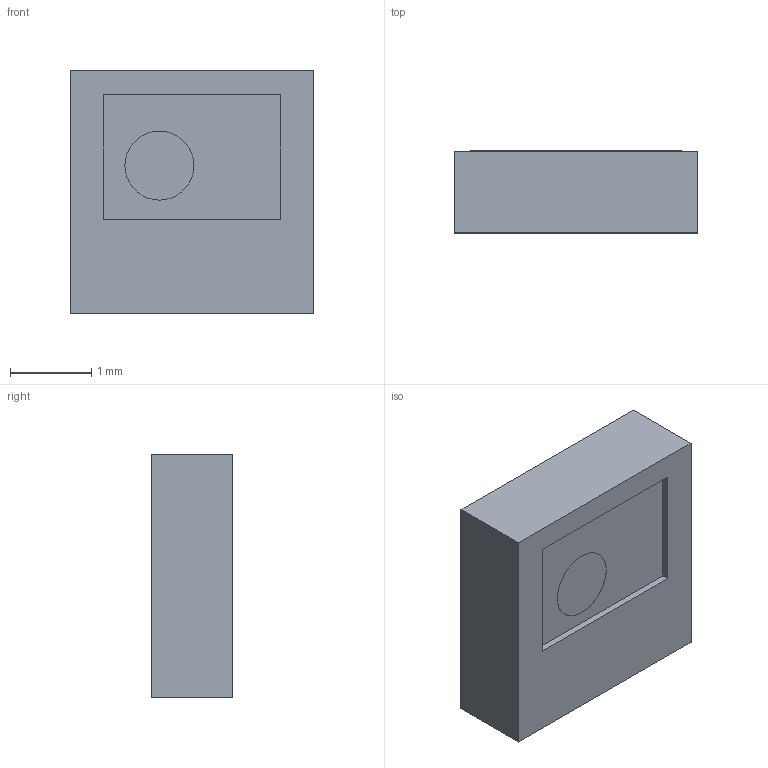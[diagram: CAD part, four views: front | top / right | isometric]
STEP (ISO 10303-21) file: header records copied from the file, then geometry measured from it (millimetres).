
FILE_DESCRIPTION((''),'2;1');
FILE_NAME('MODEL-2','2015-12-02T',('jre'),(''),'PRO/ENGINEER BY PARAMETRIC TECHNOLOGY CORPORATION, 2010280','PRO/ENGINEER BY PARAMETRIC TECHNOLOGY CORPORATION, 2010280','');
FILE_SCHEMA(('CONFIG_CONTROL_DESIGN'));
Length unit declared in the file: millimetre
Products named in the file (1): MODEL-2
Bounding box: 3 x 1.01 x 3 mm (x, y, z)
Volume: 8.8 mm3; surface area: 31.8 mm2
Topology: 2 solids, 2 shells, 45 faces, 102 edges, 68 vertices
Faces by surface type: plane 38, cylinder 7
Entity records: 1286 total; most frequent: CARTESIAN_POINT 215, DIRECTION 206, ORIENTED_EDGE 204, EDGE_CURVE 102, VECTOR 88, LINE 88, VERTEX_POINT 68, AXIS2_PLACEMENT_3D 59
